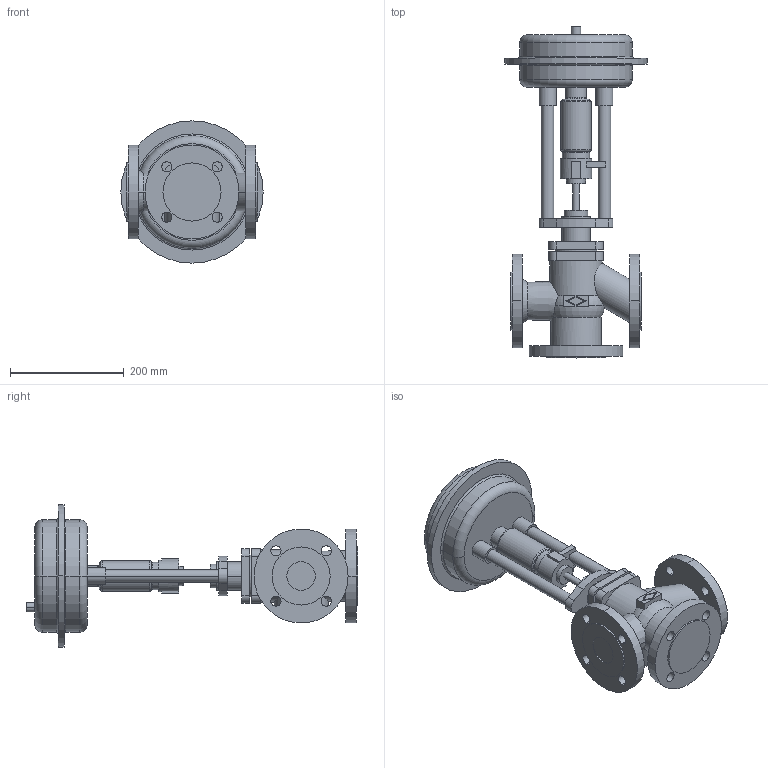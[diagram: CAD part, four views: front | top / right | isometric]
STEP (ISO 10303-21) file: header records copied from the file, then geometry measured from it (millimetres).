
FILE_DESCRIPTION(('OneSpaceDesigner STEP Export'),'2;1');
FILE_NAME('c000000655.stp','2006-09-13T12:59:08',(''),(''),'OneSpace Designer STEP processor for AP214 (Solid Model)','OneSpace Designer 13.20A 18-Aug-2005 (C) CoCreate Software GmbH','');
FILE_SCHEMA(('AUTOMOTIVE_DESIGN { 1 0 10303 214 1 1 1 1 }'));
Length unit declared in the file: millimetre
Products named in the file (2): 1; 2
Bounding box: 250 x 583.5 x 250 mm (x, y, z)
Volume: 6669246.4 mm3; surface area: 487361 mm2
Topology: 2 solids, 2 shells, 203 faces, 491 edges, 320 vertices
Faces by surface type: cylinder 96, plane 77, torus 22, cone 8
Entity records: 5660 total; most frequent: CARTESIAN_POINT 1285, ORIENTED_EDGE 982, DIRECTION 794, EDGE_CURVE 491, VERTEX_POINT 320, AXIS2_PLACEMENT_3D 289, EDGE_LOOP 255, VECTOR 216
